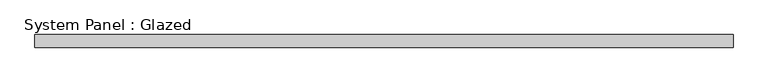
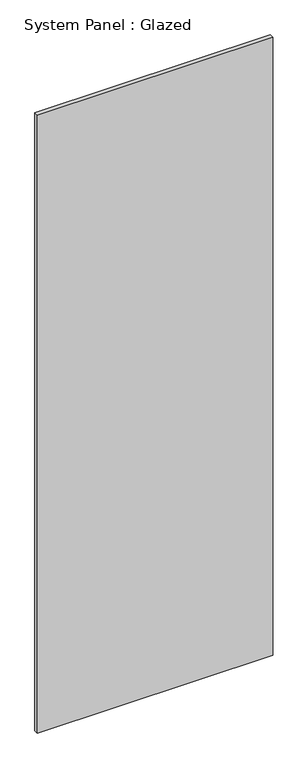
"""IFC4 building model written with IfcOpenShell, lengths in millimetres: plate geometry, System Panel : Glazed."""

from ifc_helpers import new_model, si_unit, origin, origin_with_axes, place, context, project, spatial, polyline, outline, extrude, source, transform, mapped, element, save


def system_panel_glazed_372dedf1(model_context):
    return source(origin(), model_context, "Body", "SweptSolid", [
        extrude(outline(polyline([(676.1589134, -49.5), (-676.1589134, -49.5), (-676.1589134, -24.5), (676.1589134, -24.5), (676.1589134, -49.5)])), origin_with_axes(), (0.0, 0.0, 1.0), 3750.0),
    ])


if __name__ == "__main__":
    model = new_model("IFC4")
    model_context = context("Model", 3, world=origin())
    ifc_project = project(units=[si_unit("LENGTHUNIT", "METRE", prefix="MILLI")], contexts=[model_context])
    site = spatial("IfcSite", under=ifc_project)
    building = spatial("IfcBuilding", under=site)
    placement = place(None, origin())
    system_panel_glazed_shape = system_panel_glazed_372dedf1(model_context)
    element("IfcPlate", 1, ObjectType="System Panel : Glazed", at=placement, inside=building, context=model_context, shape_type="MappedRepresentation", body=[
        mapped(system_panel_glazed_shape, transform((0.0, 0.0, 0.0), x_axis=(1.0, 0.0, 0.0), y_axis=(0.0, 1.0, 0.0), z_axis=(0.0, 0.0, 1.0))),
    ])
    save(model, "model.ifc")
